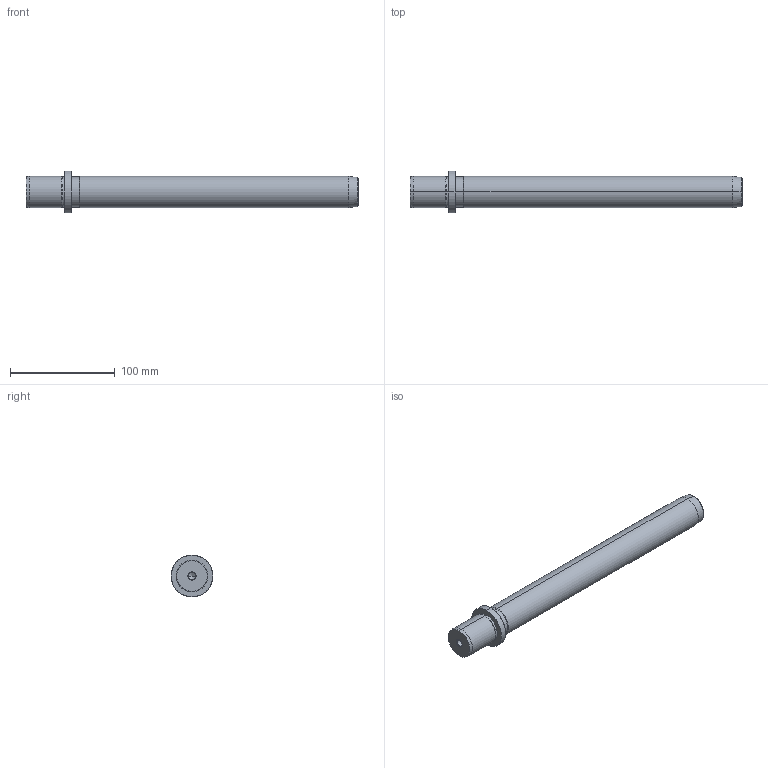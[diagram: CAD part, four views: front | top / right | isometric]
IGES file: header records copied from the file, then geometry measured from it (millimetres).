
Start section: START RECORD GO HERE.
Global section: file name: 719-30x280.igs; native system: DASSAULT SYSTEMES CATIA V5 R20 - www.3ds.com; preprocessor: CATIA Version 5 Release 20 ; author: Utente; organization: NB04-ASUS; date: 20210103.170342; units: millimetre
Bounding box: 317 x 40 x 40 mm (x, y, z)
Surface area: 33457.5 mm2 (no closed solid volume)
Topology: 0 solids, 0 shells, 36 faces, 196 edges, 192 vertices
Faces by surface type: revolution 32, plane 4
